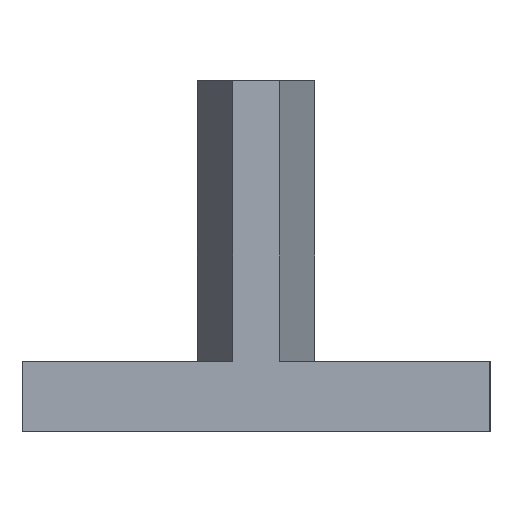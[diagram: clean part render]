
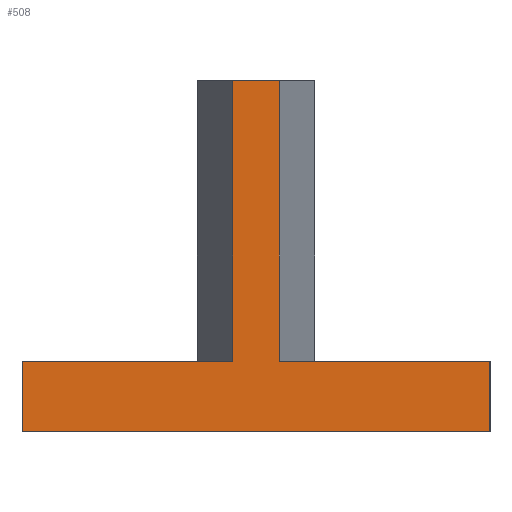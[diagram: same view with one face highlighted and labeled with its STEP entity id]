
A CAD part, left-side view. The second image highlights one B-rep face of the part: STEP entity #508.
In plain terms, the highlighted planar face has unit normal (-1, 0, 0).
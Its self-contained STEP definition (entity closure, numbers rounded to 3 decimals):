
#508=ADVANCED_FACE('',(#1328),#1329,.T.);
#1328=FACE_OUTER_BOUND('',#2202,.T.);
#1329=PLANE('',#2203);
#2202=EDGE_LOOP('',(#3660,#3661,#3662,#3663,#3664,#3665,#3666,#3667));
#2203=AXIS2_PLACEMENT_3D('',#3668,#3669,#3670);
#3660=ORIENTED_EDGE('',*,*,#4628,.F.);
#3661=ORIENTED_EDGE('',*,*,#4643,.F.);
#3662=ORIENTED_EDGE('',*,*,#4649,.F.);
#3663=ORIENTED_EDGE('',*,*,#4516,.F.);
#3664=ORIENTED_EDGE('',*,*,#4617,.F.);
#3665=ORIENTED_EDGE('',*,*,#4651,.F.);
#3666=ORIENTED_EDGE('',*,*,#4614,.T.);
#3667=ORIENTED_EDGE('',*,*,#4621,.F.);
#3668=CARTESIAN_POINT('',(0.0,2.5,0.0));
#3669=DIRECTION('',(-1.0,0.,0.0));
#3670=DIRECTION('',(0.,-1.0,0.0));
#4516=EDGE_CURVE('',#5440,#5442,#5443,.T.);
#4614=EDGE_CURVE('',#5576,#5580,#5582,.T.);
#4617=EDGE_CURVE('',#5584,#5440,#5587,.T.);
#4621=EDGE_CURVE('',#5590,#5580,#5593,.T.);
#4628=EDGE_CURVE('',#5602,#5590,#5604,.T.);
#4643=EDGE_CURVE('',#5623,#5602,#5625,.T.);
#4649=EDGE_CURVE('',#5442,#5623,#5631,.T.);
#4651=EDGE_CURVE('',#5576,#5584,#5633,.T.);
#5440=VERTEX_POINT('',#6418);
#5442=VERTEX_POINT('',#6421);
#5443=LINE('',#6422,#6423);
#5576=VERTEX_POINT('',#6596);
#5580=VERTEX_POINT('',#6602);
#5582=LINE('',#6605,#6606);
#5584=VERTEX_POINT('',#6608);
#5587=LINE('',#6612,#6613);
#5590=VERTEX_POINT('',#6617);
#5593=LINE('',#6621,#6622);
#5602=VERTEX_POINT('',#6635);
#5604=LINE('',#6638,#6639);
#5623=VERTEX_POINT('',#6667);
#5625=LINE('',#6670,#6671);
#5631=LINE('',#6679,#6680);
#5633=LINE('',#6682,#6683);
#6418=CARTESIAN_POINT('',(0.0,10.0,3.0));
#6421=CARTESIAN_POINT('',(0.0,1.,3.0));
#6422=CARTESIAN_POINT('',(0.0,-10.0,3.0));
#6423=VECTOR('',#7180,1.0);
#6596=CARTESIAN_POINT('',(0.0,-10.0,0.0));
#6602=CARTESIAN_POINT('',(0.0,-10.0,3.0));
#6605=CARTESIAN_POINT('',(0.0,-10.0,0.0));
#6606=VECTOR('',#7296,1.0);
#6608=CARTESIAN_POINT('',(0.0,10.0,0.0));
#6612=CARTESIAN_POINT('',(0.0,10.0,0.0));
#6613=VECTOR('',#7298,1.0);
#6617=CARTESIAN_POINT('',(0.0,-1.,3.0));
#6621=CARTESIAN_POINT('',(0.0,-10.0,3.0));
#6622=VECTOR('',#7301,1.0);
#6635=CARTESIAN_POINT('',(0.0,-1.,15.0));
#6638=CARTESIAN_POINT('',(0.0,-1.,3.75));
#6639=VECTOR('',#7307,1.0);
#6667=CARTESIAN_POINT('',(0.0,1.,15.0));
#6670=CARTESIAN_POINT('',(0.0,-2.5,15.0));
#6671=VECTOR('',#7318,1.0);
#6679=CARTESIAN_POINT('',(0.0,1.,3.75));
#6680=VECTOR('',#7321,1.0);
#6682=CARTESIAN_POINT('',(0.0,-2.5,0.0));
#6683=VECTOR('',#7322,1.0);
#7180=DIRECTION('',(0.,-1.0,0.0));
#7296=DIRECTION('',(0.0,0.0,1.0));
#7298=DIRECTION('',(0.0,0.0,1.0));
#7301=DIRECTION('',(0.,-1.0,0.0));
#7307=DIRECTION('',(0.0,-0.0,-1.0));
#7318=DIRECTION('',(0.,-1.0,0.0));
#7321=DIRECTION('',(0.0,0.0,1.0));
#7322=DIRECTION('',(0.,1.0,0.0));
